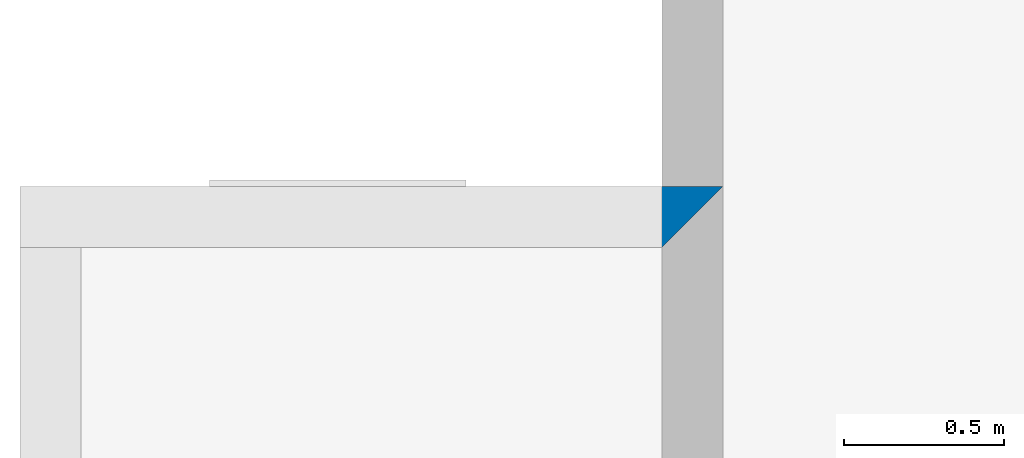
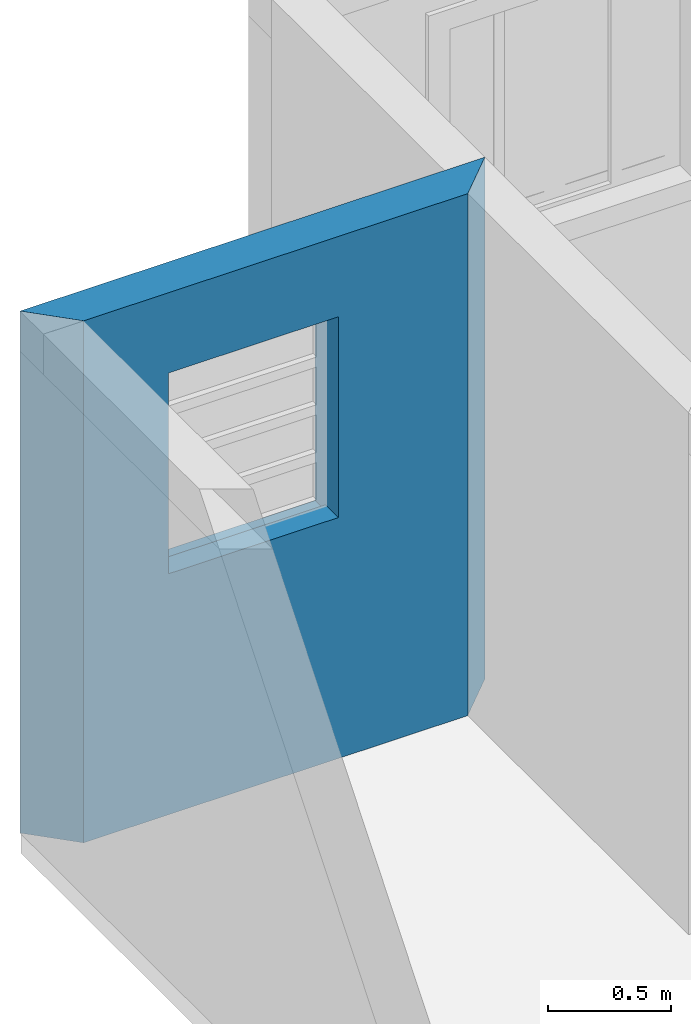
# One storey, part 33 of 47: 1 wall, 1 opening.
"""IFC2X3 building model written with IfcOpenShell, lengths in millimetres."""

from ifc_helpers import new_model, entity, si_unit, converted_unit, derived_unit, money_unit, direction, frame, origin_with_axes, origin_2d_with_axis, place, context, subcontext, project, spatial, polyline, rectangle, outline, extrude, material, layer, layer_set, layer_usage, type_object, element, save


model = new_model("IFC2X3")

# Units and contexts
model_context = context("Model", 3, precision=0.01, world=origin_with_axes(), true_north=direction((0.0, 1.0)))
body_context = subcontext(model_context, "Body", "Model", "MODEL_VIEW")
ifc_project = project(units=[si_unit("LENGTHUNIT", "METRE", prefix="MILLI"), si_unit("AREAUNIT", "SQUARE_METRE"), si_unit("VOLUMEUNIT", "CUBIC_METRE"), converted_unit("PLANEANGLEUNIT", "DEGREE", entity("IfcPlaneAngleMeasure", 0.0174532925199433), si_unit("PLANEANGLEUNIT", "RADIAN"), dimensions=[0, 0, 0, 0, 0, 0, 0]), money_unit("USD"), converted_unit("TIMEUNIT", "Year", entity("IfcTimeMeasure", 31557600.0), si_unit("TIMEUNIT", "SECOND"), dimensions=[0, 0, 1, 0, 0, 0, 0]), si_unit("MASSUNIT", "GRAM", prefix="KILO"), si_unit("THERMODYNAMICTEMPERATUREUNIT", "DEGREE_CELSIUS"), si_unit("LUMINOUSINTENSITYUNIT", "LUMEN"), si_unit("ENERGYUNIT", "JOULE", prefix="MEGA"), derived_unit("THERMALCONDUCTANCEUNIT", [(si_unit("POWERUNIT", "WATT"), 1), (si_unit("LENGTHUNIT", "METRE"), -1), (si_unit("THERMODYNAMICTEMPERATUREUNIT", "KELVIN"), -1)]), derived_unit("SPECIFICHEATCAPACITYUNIT", [(si_unit("ENERGYUNIT", "JOULE"), 1), (si_unit("MASSUNIT", "GRAM", prefix="KILO"), -1), (si_unit("THERMODYNAMICTEMPERATUREUNIT", "KELVIN"), -1)]), derived_unit("MASSDENSITYUNIT", [(si_unit("MASSUNIT", "GRAM", prefix="KILO"), 1), (si_unit("VOLUMEUNIT", "CUBIC_METRE"), -1)])], contexts=[model_context])

# Site, building, storey
site_placement = place(None, origin_with_axes())
site = spatial("IfcSite", under=ifc_project, at=site_placement, Name="Local", CompositionType="ELEMENT")
building_placement = place(site_placement, origin_with_axes())
building = spatial("IfcBuilding", under=site, at=building_placement, Name="Construção", CompositionType="ELEMENT")
storey_placement = place(building_placement, origin_with_axes())
storey = spatial("IfcBuildingStorey", under=building, at=storey_placement, Name="Pavimento Tipo", CompositionType="ELEMENT", Elevation=0.0)

# Wall, opening
ifc_material = material(Name="Concreto - Estrutural")
ifc_layer = layer(ifc_material, 190.0, ventilated="UNKNOWN")
ifc_layer_set = layer_set([ifc_layer], Name="Concreto - Estrutural 190")
ifc_layer_usage = layer_usage(ifc_layer_set, "AXIS2", "POSITIVE", 0.0)
wall_type = type_object("IfcWallType", Name="Concreto - Estrutural 190", PredefinedType="NOTDEFINED")
wall_placement = place(storey_placement, frame((-4547.433002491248, 17586.98141771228, 0.0), z_axis=(0.0, 0.0, 1.0), x_axis=(-1.0, 0.0, 0.0)))
wall = element("IfcWallStandardCase", 1, at=wall_placement, inside=storey, type_object=wall_type, material=ifc_layer_usage, Name="Apartamento 2 - Parede-087", context=body_context, shape_type="SweptSolid", body=[
    extrude(outline(polyline([(-190.0000000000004, 0.0), (2000.0, 0.0), (1810.0, 190.0000000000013), (0.0, 190.0000000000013), (-190.0000000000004, 0.0)])), origin_with_axes(), (0.0, 0.0, 1.0), 2600.0),
])
opening_placement = place(wall_placement, frame((1009.999999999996, 0.0, 1200.0), z_axis=(0.0, 0.0, 1.0), x_axis=(1.0, 0.0, 0.0)))
element("IfcOpeningElement", 2, at=opening_placement, cuts=wall, Name="Apartamento 2 - J04", context=body_context, shape_type="SweptSolid", body=[
    extrude(rectangle(XDim=800.0000000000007, YDim=1000.0, at=origin_2d_with_axis()), frame((0.0, 50.00000000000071, 500.0), z_axis=(0.0, 1.0, 0.0), x_axis=(1.0, 0.0, 0.0)), (0.0, 0.0, 1.0), 330.0),
    extrude(rectangle(XDim=800.0000000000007, YDim=1000.0, at=origin_2d_with_axis()), frame((0.0, 50.00000000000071, 500.0), z_axis=(0.0, -1.0, 0.0), x_axis=(1.0, 0.0, 0.0)), (0.0, 0.0, 1.0), 240.0),
    extrude(rectangle(XDim=800.0000000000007, YDim=30.00000000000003, at=origin_2d_with_axis()), frame((0.0, 85.00000000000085, -15.00000000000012), z_axis=(0.0, -1.0, 0.0), x_axis=(1.0, 0.0, 0.0)), (0.0, 0.0, 1.0), 225.0),
])

save(model, "model.ifc")
